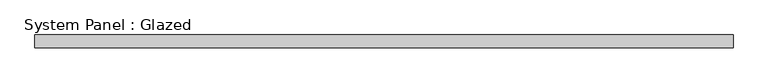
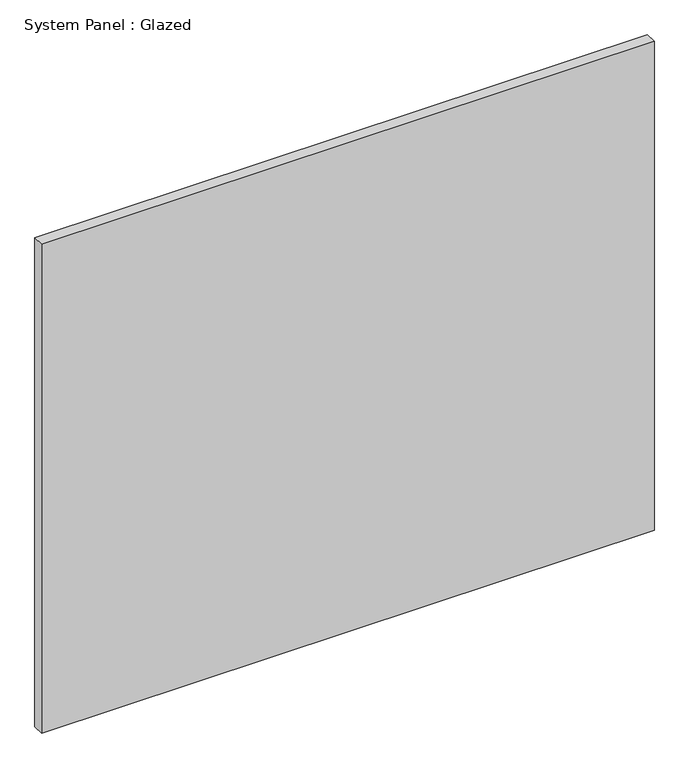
"""IFC4 building model written with IfcOpenShell, lengths in millimetres: plate geometry, System Panel : Glazed."""

from ifc_helpers import new_model, si_unit, origin, origin_with_axes, place, context, project, spatial, polyline, outline, extrude, source, transform, mapped, element, save


def system_panel_glazed_a7461d71(model_context):
    return source(origin(), model_context, "Body", "SweptSolid", [
        extrude(outline(polyline([(667.4999999, -49.5), (-667.4999999, -49.5), (-667.4999999, -24.5), (667.4999999, -24.5), (667.4999999, -49.5)])), origin_with_axes(), (0.0, 0.0, 1.0), 1125.0),
    ])


if __name__ == "__main__":
    model = new_model("IFC4")
    model_context = context("Model", 3, world=origin())
    ifc_project = project(units=[si_unit("LENGTHUNIT", "METRE", prefix="MILLI")], contexts=[model_context])
    site = spatial("IfcSite", under=ifc_project)
    building = spatial("IfcBuilding", under=site)
    placement = place(None, origin())
    system_panel_glazed_shape = system_panel_glazed_a7461d71(model_context)
    element("IfcPlate", 1, ObjectType="System Panel : Glazed", at=placement, inside=building, context=model_context, shape_type="MappedRepresentation", body=[
        mapped(system_panel_glazed_shape, transform((0.0, 0.0, 0.0), x_axis=(1.0, 0.0, 0.0), y_axis=(0.0, 1.0, 0.0), z_axis=(0.0, 0.0, 1.0))),
    ])
    save(model, "model.ifc")
